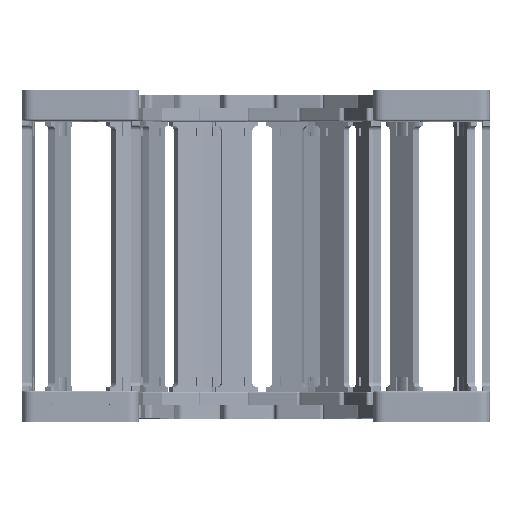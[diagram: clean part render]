
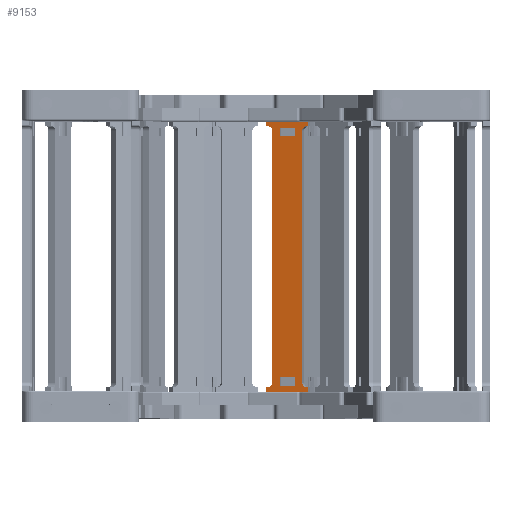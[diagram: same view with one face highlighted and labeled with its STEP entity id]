
A CAD part, top view. The second image highlights one B-rep face of the part: STEP entity #9153.
In plain terms, the highlighted planar face has unit normal (-0.259, 0, 0.966) as drawn and (0, -1, 0) by its records, which use the part's own axes.
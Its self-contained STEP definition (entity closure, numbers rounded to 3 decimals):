
#8346=DIRECTION('',(0.,0.,-1.));
#8347=VECTOR('',#8346,28.);
#8348=CARTESIAN_POINT('',(-19.5,0.,14.));
#8349=LINE('',#8348,#8347);
#8375=DIRECTION('',(1.,0.,0.));
#8376=VECTOR('',#8375,5.5);
#8377=CARTESIAN_POINT('',(-15.5,0.,5.15));
#8378=LINE('',#8377,#8376);
#8379=DIRECTION('',(0.,0.,-1.));
#8380=VECTOR('',#8379,10.3);
#8381=CARTESIAN_POINT('',(-10.,0.,5.15));
#8382=LINE('',#8381,#8380);
#8395=DIRECTION('',(-1.,0.,0.));
#8396=VECTOR('',#8395,5.5);
#8397=CARTESIAN_POINT('',(-10.,0.,-5.15));
#8398=LINE('',#8397,#8396);
#8427=DIRECTION('',(0.,0.,1.));
#8428=VECTOR('',#8427,10.3);
#8429=CARTESIAN_POINT('',(146.5,0.,-5.15));
#8430=LINE('',#8429,#8428);
#8443=DIRECTION('',(1.,0.,0.));
#8444=VECTOR('',#8443,5.5);
#8445=CARTESIAN_POINT('',(146.5,0.,5.15));
#8446=LINE('',#8445,#8444);
#8456=DIRECTION('',(0.,0.,1.));
#8457=VECTOR('',#8456,28.);
#8458=CARTESIAN_POINT('',(156.,0.,-14.));
#8459=LINE('',#8458,#8457);
#8485=DIRECTION('',(-1.,0.,0.));
#8486=VECTOR('',#8485,5.5);
#8487=CARTESIAN_POINT('',(152.,0.,-5.15));
#8488=LINE('',#8487,#8486);
#8501=DIRECTION('',(0.,0.,-1.));
#8502=VECTOR('',#8501,10.3);
#8503=CARTESIAN_POINT('',(-15.5,0.,5.15));
#8504=LINE('',#8503,#8502);
#8505=DIRECTION('',(0.,0.,1.));
#8506=VECTOR('',#8505,10.3);
#8507=CARTESIAN_POINT('',(152.,0.,-5.15));
#8508=LINE('',#8507,#8506);
#8509=CARTESIAN_POINT('',(150.,0.,13.));
#8510=DIRECTION('',(0.,-1.,0.));
#8511=DIRECTION('',(0.,0.,-1.));
#8512=AXIS2_PLACEMENT_3D('',#8509,#8510,#8511);
#8514=CARTESIAN_POINT('',(150.,0.,-13.));
#8515=DIRECTION('',(0.,-1.,0.));
#8516=DIRECTION('',(1.,0.,0.));
#8517=AXIS2_PLACEMENT_3D('',#8514,#8515,#8516);
#8539=DIRECTION('',(0.,0.,1.));
#8540=VECTOR('',#8539,1.);
#8541=CARTESIAN_POINT('',(-16.5,0.,13.));
#8542=LINE('',#8541,#8540);
#8552=CARTESIAN_POINT('',(-13.5,0.,13.));
#8553=DIRECTION('',(0.,1.,0.));
#8554=DIRECTION('',(0.,0.,-1.));
#8555=AXIS2_PLACEMENT_3D('',#8552,#8553,#8554);
#8586=DIRECTION('',(-1.,0.,0.));
#8587=VECTOR('',#8586,163.5);
#8588=CARTESIAN_POINT('',(150.,0.,10.));
#8589=LINE('',#8588,#8587);
#8602=DIRECTION('',(-1.,0.,0.));
#8603=VECTOR('',#8602,3.);
#8604=CARTESIAN_POINT('',(-16.5,0.,14.));
#8605=LINE('',#8604,#8603);
#8610=DIRECTION('',(-1.,0.,0.));
#8611=VECTOR('',#8610,3.);
#8612=CARTESIAN_POINT('',(156.,0.,14.));
#8613=LINE('',#8612,#8611);
#8623=DIRECTION('',(0.,0.,-1.));
#8624=VECTOR('',#8623,1.);
#8625=CARTESIAN_POINT('',(153.,0.,14.));
#8626=LINE('',#8625,#8624);
#8656=DIRECTION('',(1.,0.,0.));
#8657=VECTOR('',#8656,3.);
#8658=CARTESIAN_POINT('',(153.,0.,-14.));
#8659=LINE('',#8658,#8657);
#8685=DIRECTION('',(0.,0.,1.));
#8686=VECTOR('',#8685,1.);
#8687=CARTESIAN_POINT('',(-16.5,0.,-14.));
#8688=LINE('',#8687,#8686);
#8710=CARTESIAN_POINT('',(-13.5,0.,-13.));
#8711=DIRECTION('',(0.,1.,0.));
#8712=DIRECTION('',(-1.,0.,0.));
#8713=AXIS2_PLACEMENT_3D('',#8710,#8711,#8712);
#8719=DIRECTION('',(1.,0.,0.));
#8720=VECTOR('',#8719,163.5);
#8721=CARTESIAN_POINT('',(-13.5,0.,-10.));
#8722=LINE('',#8721,#8720);
#8761=DIRECTION('',(0.,0.,-1.));
#8762=VECTOR('',#8761,1.);
#8763=CARTESIAN_POINT('',(153.,0.,-13.));
#8764=LINE('',#8763,#8762);
#8769=DIRECTION('',(1.,0.,0.));
#8770=VECTOR('',#8769,3.);
#8771=CARTESIAN_POINT('',(-19.5,0.,-14.));
#8772=LINE('',#8771,#8770);
#8802=CARTESIAN_POINT('',(156.,0.,-14.));
#8803=VERTEX_POINT('',#8802);
#8804=CARTESIAN_POINT('',(156.,0.,14.));
#8805=VERTEX_POINT('',#8804);
#8806=CARTESIAN_POINT('',(146.5,0.,-5.15));
#8807=CARTESIAN_POINT('',(146.5,0.,5.15));
#8808=VERTEX_POINT('',#8806);
#8809=VERTEX_POINT('',#8807);
#8812=CARTESIAN_POINT('',(152.,0.,-5.15));
#8813=VERTEX_POINT('',#8812);
#8816=CARTESIAN_POINT('',(152.,0.,5.15));
#8817=VERTEX_POINT('',#8816);
#8818=CARTESIAN_POINT('',(150.,0.,10.));
#8819=CARTESIAN_POINT('',(153.,0.,13.));
#8820=VERTEX_POINT('',#8818);
#8821=VERTEX_POINT('',#8819);
#8822=CARTESIAN_POINT('',(153.,0.,14.));
#8823=VERTEX_POINT('',#8822);
#8824=CARTESIAN_POINT('',(153.,0.,-14.));
#8825=VERTEX_POINT('',#8824);
#8826=CARTESIAN_POINT('',(153.,0.,-13.));
#8827=VERTEX_POINT('',#8826);
#8828=CARTESIAN_POINT('',(150.,0.,-10.));
#8829=VERTEX_POINT('',#8828);
#8843=CARTESIAN_POINT('',(-19.5,0.,-14.));
#8844=CARTESIAN_POINT('',(-16.5,0.,-14.));
#8845=VERTEX_POINT('',#8843);
#8846=VERTEX_POINT('',#8844);
#8847=CARTESIAN_POINT('',(-19.5,0.,14.));
#8848=VERTEX_POINT('',#8847);
#8849=CARTESIAN_POINT('',(-16.5,0.,14.));
#8850=VERTEX_POINT('',#8849);
#8851=CARTESIAN_POINT('',(-15.5,0.,5.15));
#8852=CARTESIAN_POINT('',(-15.5,0.,-5.15));
#8853=VERTEX_POINT('',#8851);
#8854=VERTEX_POINT('',#8852);
#8855=CARTESIAN_POINT('',(-10.,0.,-5.15));
#8856=VERTEX_POINT('',#8855);
#8857=CARTESIAN_POINT('',(-10.,0.,5.15));
#8858=VERTEX_POINT('',#8857);
#8863=CARTESIAN_POINT('',(-13.5,0.,-10.));
#8865=VERTEX_POINT('',#8863);
#8867=CARTESIAN_POINT('',(-16.5,0.,-13.));
#8869=VERTEX_POINT('',#8867);
#8872=CARTESIAN_POINT('',(-13.5,0.,10.));
#8874=VERTEX_POINT('',#8872);
#8876=CARTESIAN_POINT('',(-16.5,0.,13.));
#8878=VERTEX_POINT('',#8876);
#9103=CARTESIAN_POINT('',(136.5,0.,0.));
#9104=DIRECTION('',(0.,1.,0.));
#9105=DIRECTION('',(1.,0.,0.));
#9106=AXIS2_PLACEMENT_3D('',#9103,#9104,#9105);
#9107=PLANE('',#9106);
#9109=ORIENTED_EDGE('',*,*,#9108,.F.);
#9111=ORIENTED_EDGE('',*,*,#9110,.F.);
#9113=ORIENTED_EDGE('',*,*,#9112,.F.);
#9115=ORIENTED_EDGE('',*,*,#9114,.T.);
#9117=ORIENTED_EDGE('',*,*,#9116,.F.);
#9119=ORIENTED_EDGE('',*,*,#9118,.F.);
#9120=ORIENTED_EDGE('',*,*,#9047,.F.);
#9122=ORIENTED_EDGE('',*,*,#9121,.F.);
#9124=ORIENTED_EDGE('',*,*,#9123,.F.);
#9126=ORIENTED_EDGE('',*,*,#9125,.T.);
#9128=ORIENTED_EDGE('',*,*,#9127,.F.);
#9130=ORIENTED_EDGE('',*,*,#9129,.F.);
#9132=ORIENTED_EDGE('',*,*,#9131,.F.);
#9134=ORIENTED_EDGE('',*,*,#9133,.F.);
#9135=ORIENTED_EDGE('',*,*,#8908,.F.);
#9137=ORIENTED_EDGE('',*,*,#9136,.F.);
#9138=EDGE_LOOP('',(#9109,#9111,#9113,#9115,#9117,#9119,#9120,#9122,#9124,#9126,
#9128,#9130,#9132,#9134,#9135,#9137));
#9139=FACE_OUTER_BOUND('',#9138,.F.);
#9140=ORIENTED_EDGE('',*,*,#9097,.T.);
#9141=ORIENTED_EDGE('',*,*,#9026,.F.);
#9142=ORIENTED_EDGE('',*,*,#9012,.F.);
#9143=ORIENTED_EDGE('',*,*,#9072,.F.);
#9144=EDGE_LOOP('',(#9140,#9141,#9142,#9143));
#9145=FACE_BOUND('',#9144,.F.);
#9147=ORIENTED_EDGE('',*,*,#9146,.T.);
#9148=ORIENTED_EDGE('',*,*,#8966,.F.);
#9149=ORIENTED_EDGE('',*,*,#8952,.F.);
#9150=ORIENTED_EDGE('',*,*,#8937,.F.);
#9151=EDGE_LOOP('',(#9147,#9148,#9149,#9150));
#9152=FACE_BOUND('',#9151,.F.);
#9153=ADVANCED_FACE('',(#9139,#9145,#9152),#9107,.F.);
#8513=CIRCLE('',#8512,3.);
#8518=CIRCLE('',#8517,3.);
#8556=CIRCLE('',#8555,3.);
#8714=CIRCLE('',#8713,3.);
#8908=EDGE_CURVE('',#8848,#8845,#8349,.T.);
#8937=EDGE_CURVE('',#8853,#8858,#8378,.T.);
#8952=EDGE_CURVE('',#8858,#8856,#8382,.T.);
#8966=EDGE_CURVE('',#8856,#8854,#8398,.T.);
#9012=EDGE_CURVE('',#8808,#8809,#8430,.T.);
#9026=EDGE_CURVE('',#8809,#8817,#8446,.T.);
#9047=EDGE_CURVE('',#8803,#8805,#8459,.T.);
#9072=EDGE_CURVE('',#8813,#8808,#8488,.T.);
#9097=EDGE_CURVE('',#8813,#8817,#8508,.T.);
#9108=EDGE_CURVE('',#8878,#8850,#8542,.T.);
#9110=EDGE_CURVE('',#8874,#8878,#8556,.T.);
#9112=EDGE_CURVE('',#8820,#8874,#8589,.T.);
#9114=EDGE_CURVE('',#8820,#8821,#8513,.T.);
#9116=EDGE_CURVE('',#8823,#8821,#8626,.T.);
#9118=EDGE_CURVE('',#8805,#8823,#8613,.T.);
#9121=EDGE_CURVE('',#8825,#8803,#8659,.T.);
#9123=EDGE_CURVE('',#8827,#8825,#8764,.T.);
#9125=EDGE_CURVE('',#8827,#8829,#8518,.T.);
#9127=EDGE_CURVE('',#8865,#8829,#8722,.T.);
#9129=EDGE_CURVE('',#8869,#8865,#8714,.T.);
#9131=EDGE_CURVE('',#8846,#8869,#8688,.T.);
#9133=EDGE_CURVE('',#8845,#8846,#8772,.T.);
#9136=EDGE_CURVE('',#8850,#8848,#8605,.T.);
#9146=EDGE_CURVE('',#8853,#8854,#8504,.T.);
